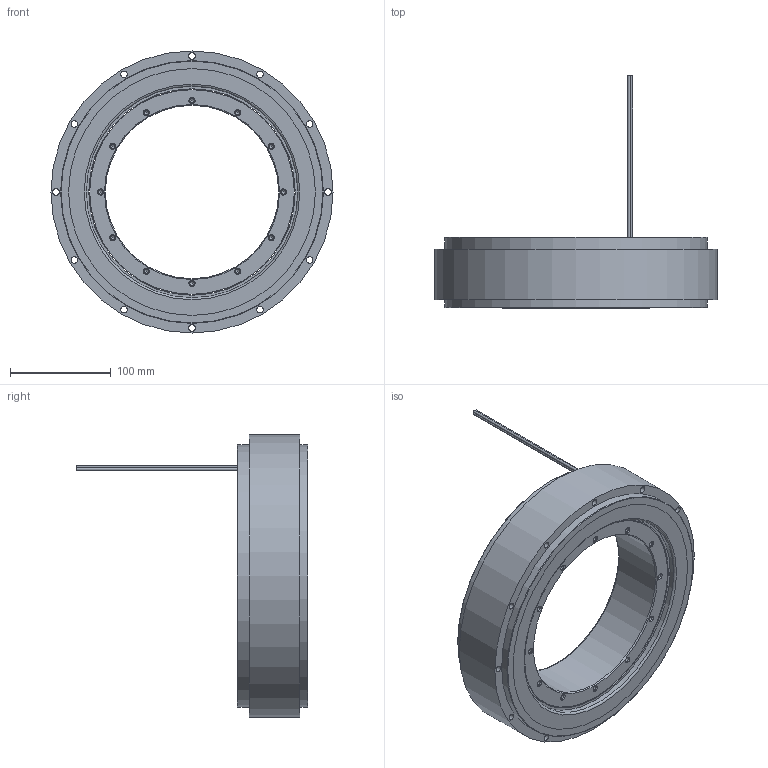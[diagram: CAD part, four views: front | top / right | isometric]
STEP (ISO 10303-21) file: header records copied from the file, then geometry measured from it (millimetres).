
FILE_DESCRIPTION(('STEP AP214'), '1');
FILE_NAME('楋樏襝鍱睯蜬蠈錪 280x25', '', ('UNSPECIFIED'), ('UNSPECIFIED'), 'C3D Converter', 'C3D Toolkit', '');
FILE_SCHEMA(('AUTOMOTIVE_DESIGN { 1 0 10303 214 3 1 1}'));
Length unit declared in the file: millimetre
Products named in the file (3): -07; МАНП.684252.020-31; МАНП.684222.023-31
Assembly tree (2 placements, depth 2):
  -07
    МАНП.684252.020-31
    МАНП.684222.023-31
Bounding box: 280 x 230 x 280 mm (x, y, z)
Volume: 2224969.4 mm3; surface area: 262600 mm2
Topology: 5 solids, 5 shells, 122 faces, 261 edges, 155 vertices
Faces by surface type: cone 50, cylinder 49, plane 16, torus 7
Full cylindrical faces by diameter (mm): 2.6 x3, 4.134 x24, 6.4 x12, 172 x1, 203.5 x1, 205 x1, 210 x2, 245 x2, 261 x2, 280 x1
Entity records: 3742 total; most frequent: DIRECTION 512, CARTESIAN_POINT 387, EDGE_LOOP 262, ORIENTED_EDGE 262, AXIS2_PLACEMENT_3D 256, FACE_OUTER_BOUND 188, EDGE_CURVE 131, VERTEX_POINT 131
